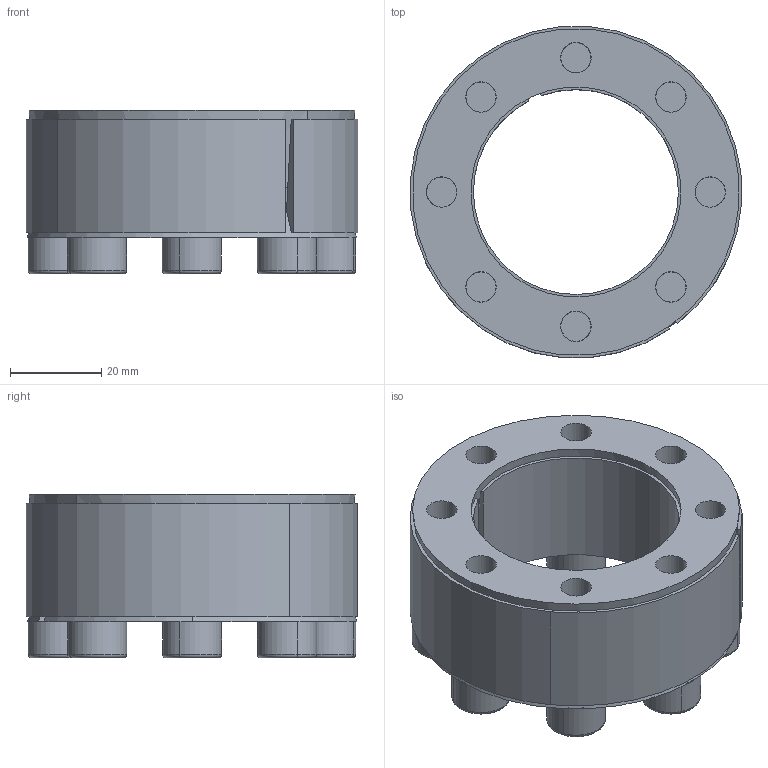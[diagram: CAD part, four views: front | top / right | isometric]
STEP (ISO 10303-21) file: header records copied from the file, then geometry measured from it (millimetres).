
FILE_DESCRIPTION (( 'STEP AP214' ), '1' );
FILE_NAME ('CONEX-L-45x73.step', '2013-04-06T13:22:53', ( 'Pc' ), ( '' ), 'SwSTEP 2.0', 'SolidWorks 2013', '' );
FILE_SCHEMA (( 'AUTOMOTIVE_DESIGN' ));
Length unit declared in the file: millimetre
Products named in the file (1): CONEX-L-45x73
Bounding box: 72.82 x 72.75 x 36.03 mm (x, y, z)
Volume: 70199.2 mm3; surface area: 47032.5 mm2
Topology: 11 solids, 11 shells, 289 faces, 663 edges, 396 vertices
Faces by surface type: plane 131, cylinder 78, cone 48, torus 32
Entity records: 11430 total; most frequent: DIRECTION 1532, CARTESIAN_POINT 1366, ORIENTED_EDGE 1294, EDGE_CURVE 647, AXIS2_PLACEMENT_3D 603, VERTEX_POINT 396, EDGE_LOOP 347, LINE 326
